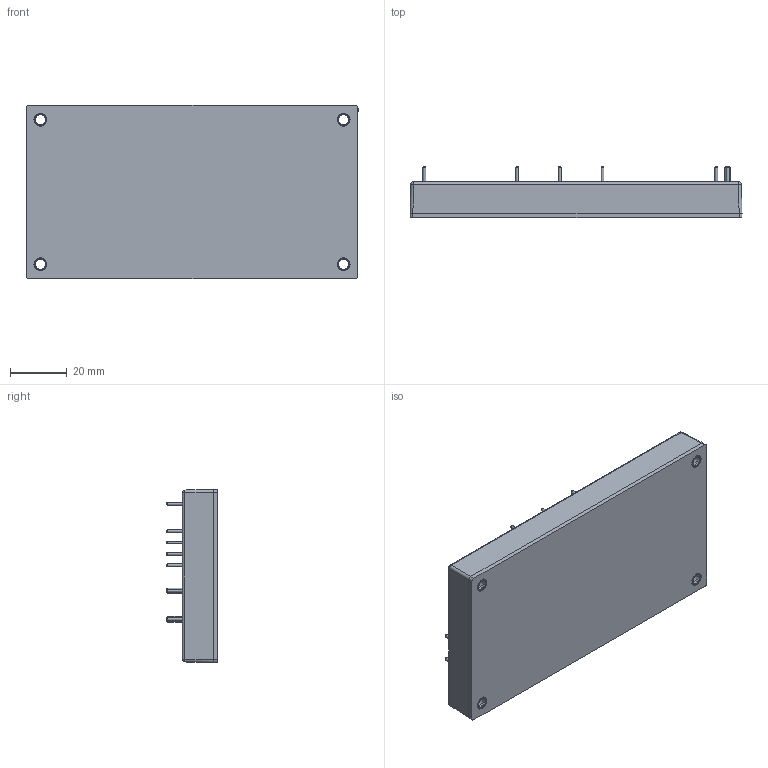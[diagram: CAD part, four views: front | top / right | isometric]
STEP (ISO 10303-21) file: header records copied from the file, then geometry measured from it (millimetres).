
FILE_DESCRIPTION (( 'STEP AP203' ), '1' );
FILE_NAME ('PDF700成品圖2020.09.23.STEP', '2021-08-20T10:19:57', ( '' ), ( '' ), 'SwSTEP 2.0', 'SolidWorks 2020', '' );
FILE_SCHEMA (( 'CONFIG_CONTROL_DESIGN' ));
Length unit declared in the file: millimetre
Products named in the file (7): CFB400W PCB鋁基板示意圖 2016,11,23; CFB400W 銅柱12.5mm(M-C460-02-P)G75J2190021; PDF700 ｶ鷄IN+ﾄ鮨ｦ･ﾜｷNｹﾏ 2020.09.23; G511C410031 M-C1309-00-M CASE OF DC-DC PLASTIC CASE FB-13 DAP (WH-9100) 黑色; PDF700成品圖2020.09.23; BASE 支工
Assembly tree (9 placements, depth 3):
  PDF700成品圖2020.09.23
    CFB400W PCB鋁基板示意圖 2016,11,23
      CFB400W PCB鋁基板示意圖 2016,11,23
      CFB400W 銅柱12.5mm(M-C460-02-P)G75J2190021  x4
    PDF700 ｶ鷄IN+ﾄ鮨ｦ･ﾜｷNｹﾏ 2020.09.23
    G511C410031 M-C1309-00-M CASE OF DC-DC PLASTIC CASE FB-13 DAP (WH-9100) 黑色
    BASE 支工
Bounding box: 116.8 x 18 x 61 mm (x, y, z)
Volume: 82785.5 mm3; surface area: 55889 mm2
Topology: 21 solids, 21 shells, 1024 faces, 2554 edges, 1634 vertices
Faces by surface type: plane 566, cylinder 187, bspline 153, cone 114, sphere 4
Full cylindrical faces by diameter (mm): 1 x11, 1.4 x11, 2 x2, 2.4 x2, 3.5 x4, 4.5 x4, 5 x8, 5.8 x8, 6 x4
Entity records: 31961 total; most frequent: CARTESIAN_POINT 14192, ORIENTED_EDGE 3662, DIRECTION 2934, EDGE_CURVE 1831, VERTEX_POINT 1243, VECTOR 1180, LINE 1180, EDGE_LOOP 950
